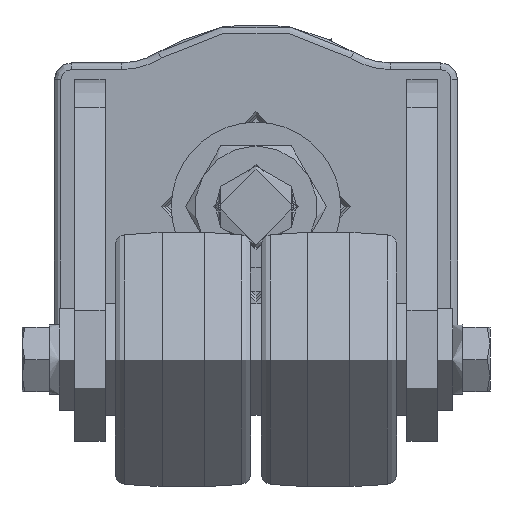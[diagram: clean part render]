
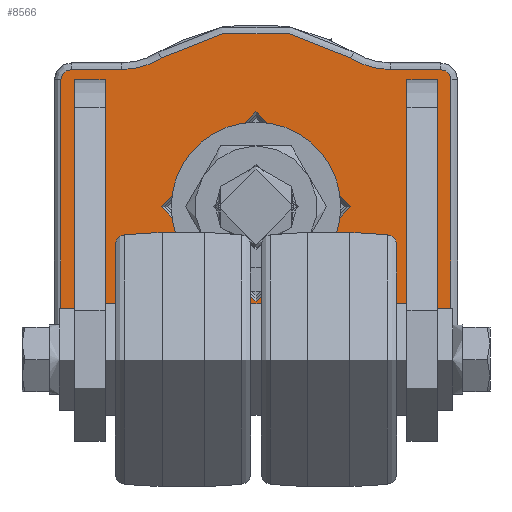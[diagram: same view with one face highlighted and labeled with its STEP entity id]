
A CAD part, front view. The second image highlights one B-rep face of the part: STEP entity #8566.
In plain terms, the highlighted planar face has unit normal (0, -1, 0).
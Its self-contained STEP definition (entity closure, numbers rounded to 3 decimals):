
#469=LINE('',#13063,#1231);
#755=LINE('',#14434,#1517);
#762=LINE('',#14465,#1524);
#768=LINE('',#14481,#1530);
#769=LINE('',#14483,#1531);
#775=LINE('',#14565,#1537);
#779=LINE('',#14575,#1541);
#783=LINE('',#14583,#1545);
#809=LINE('',#14729,#1571);
#810=LINE('',#14733,#1572);
#811=LINE('',#14737,#1573);
#812=LINE('',#14745,#1574);
#813=LINE('',#14749,#1575);
#814=LINE('',#14753,#1576);
#1231=VECTOR('',#9967,10.);
#1517=VECTOR('',#10447,10.);
#1524=VECTOR('',#10482,10.);
#1530=VECTOR('',#10500,10.);
#1531=VECTOR('',#10503,10.);
#1537=VECTOR('',#10627,10.);
#1541=VECTOR('',#10637,10.);
#1545=VECTOR('',#10649,10.);
#1571=VECTOR('',#10773,10.);
#1572=VECTOR('',#10776,10.);
#1573=VECTOR('',#10779,10.);
#1574=VECTOR('',#10786,10.);
#1575=VECTOR('',#10789,10.);
#1576=VECTOR('',#10792,10.);
#1917=PLANE('',#9095);
#2131=FACE_BOUND('',#3226,.T.);
#2132=FACE_BOUND('',#3227,.T.);
#2133=FACE_BOUND('',#3228,.T.);
#2679=FACE_OUTER_BOUND('',#3225,.T.);
#3225=EDGE_LOOP('',(#7522,#7523,#7524,#7525,#7526,#7527,#7528,#7529,#7530,
#7531,#7532,#7533,#7534,#7535,#7536,#7537));
#3226=EDGE_LOOP('',(#7538,#7539,#7540,#7541));
#3227=EDGE_LOOP('',(#7542,#7543,#7544,#7545));
#3228=EDGE_LOOP('',(#7546));
#3484=CIRCLE('',#9096,52.002);
#3485=CIRCLE('',#9097,22.);
#3486=CIRCLE('',#9098,3.);
#3487=CIRCLE('',#9099,3.);
#3488=CIRCLE('',#9100,22.);
#3489=CIRCLE('',#9101,52.002);
#3490=CIRCLE('',#9102,22.);
#3491=CIRCLE('',#9103,3.);
#3492=CIRCLE('',#9104,3.);
#3493=CIRCLE('',#9105,22.);
#3494=CIRCLE('',#9106,28.);
#3944=VERTEX_POINT('',#13059);
#3946=VERTEX_POINT('',#13062);
#4195=VERTEX_POINT('',#14430);
#4197=VERTEX_POINT('',#14433);
#4206=VERTEX_POINT('',#14461);
#4211=VERTEX_POINT('',#14479);
#4226=VERTEX_POINT('',#14561);
#4228=VERTEX_POINT('',#14564);
#4263=VERTEX_POINT('',#14723);
#4264=VERTEX_POINT('',#14724);
#4265=VERTEX_POINT('',#14726);
#4266=VERTEX_POINT('',#14728);
#4267=VERTEX_POINT('',#14730);
#4268=VERTEX_POINT('',#14732);
#4269=VERTEX_POINT('',#14734);
#4270=VERTEX_POINT('',#14736);
#4271=VERTEX_POINT('',#14738);
#4272=VERTEX_POINT('',#14740);
#4273=VERTEX_POINT('',#14742);
#4274=VERTEX_POINT('',#14744);
#4275=VERTEX_POINT('',#14746);
#4276=VERTEX_POINT('',#14748);
#4277=VERTEX_POINT('',#14750);
#4278=VERTEX_POINT('',#14752);
#4279=VERTEX_POINT('',#14755);
#4875=EDGE_CURVE('',#3946,#3944,#469,.T.);
#5248=EDGE_CURVE('',#4197,#4195,#755,.T.);
#5262=EDGE_CURVE('',#4206,#3946,#762,.T.);
#5270=EDGE_CURVE('',#3944,#4211,#768,.T.);
#5271=EDGE_CURVE('',#4211,#4206,#769,.T.);
#5309=EDGE_CURVE('',#4228,#4226,#775,.T.);
#5315=EDGE_CURVE('',#4195,#4228,#779,.T.);
#5319=EDGE_CURVE('',#4226,#4197,#783,.T.);
#5376=EDGE_CURVE('',#4263,#4264,#3484,.T.);
#5377=EDGE_CURVE('',#4265,#4263,#3485,.T.);
#5378=EDGE_CURVE('',#4266,#4265,#809,.T.);
#5379=EDGE_CURVE('',#4267,#4266,#3486,.T.);
#5380=EDGE_CURVE('',#4268,#4267,#810,.T.);
#5381=EDGE_CURVE('',#4269,#4268,#3487,.T.);
#5382=EDGE_CURVE('',#4270,#4269,#811,.T.);
#5383=EDGE_CURVE('',#4271,#4270,#3488,.T.);
#5384=EDGE_CURVE('',#4272,#4271,#3489,.T.);
#5385=EDGE_CURVE('',#4273,#4272,#3490,.T.);
#5386=EDGE_CURVE('',#4274,#4273,#812,.T.);
#5387=EDGE_CURVE('',#4275,#4274,#3491,.T.);
#5388=EDGE_CURVE('',#4276,#4275,#813,.T.);
#5389=EDGE_CURVE('',#4277,#4276,#3492,.T.);
#5390=EDGE_CURVE('',#4278,#4277,#814,.T.);
#5391=EDGE_CURVE('',#4264,#4278,#3493,.T.);
#5392=EDGE_CURVE('',#4279,#4279,#3494,.T.);
#7522=ORIENTED_EDGE('',*,*,#5376,.F.);
#7523=ORIENTED_EDGE('',*,*,#5377,.F.);
#7524=ORIENTED_EDGE('',*,*,#5378,.F.);
#7525=ORIENTED_EDGE('',*,*,#5379,.F.);
#7526=ORIENTED_EDGE('',*,*,#5380,.F.);
#7527=ORIENTED_EDGE('',*,*,#5381,.F.);
#7528=ORIENTED_EDGE('',*,*,#5382,.F.);
#7529=ORIENTED_EDGE('',*,*,#5383,.F.);
#7530=ORIENTED_EDGE('',*,*,#5384,.F.);
#7531=ORIENTED_EDGE('',*,*,#5385,.F.);
#7532=ORIENTED_EDGE('',*,*,#5386,.F.);
#7533=ORIENTED_EDGE('',*,*,#5387,.F.);
#7534=ORIENTED_EDGE('',*,*,#5388,.F.);
#7535=ORIENTED_EDGE('',*,*,#5389,.F.);
#7536=ORIENTED_EDGE('',*,*,#5390,.F.);
#7537=ORIENTED_EDGE('',*,*,#5391,.F.);
#7538=ORIENTED_EDGE('',*,*,#4875,.T.);
#7539=ORIENTED_EDGE('',*,*,#5270,.T.);
#7540=ORIENTED_EDGE('',*,*,#5271,.T.);
#7541=ORIENTED_EDGE('',*,*,#5262,.T.);
#7542=ORIENTED_EDGE('',*,*,#5309,.T.);
#7543=ORIENTED_EDGE('',*,*,#5319,.T.);
#7544=ORIENTED_EDGE('',*,*,#5248,.T.);
#7545=ORIENTED_EDGE('',*,*,#5315,.T.);
#7546=ORIENTED_EDGE('',*,*,#5392,.T.);
#8566=ADVANCED_FACE('',(#2679,#2131,#2132,#2133),#1917,.T.);
#9095=AXIS2_PLACEMENT_3D('',#14722,#10767,#10768);
#9096=AXIS2_PLACEMENT_3D('',#14725,#10769,#10770);
#9097=AXIS2_PLACEMENT_3D('',#14727,#10771,#10772);
#9098=AXIS2_PLACEMENT_3D('',#14731,#10774,#10775);
#9099=AXIS2_PLACEMENT_3D('',#14735,#10777,#10778);
#9100=AXIS2_PLACEMENT_3D('',#14739,#10780,#10781);
#9101=AXIS2_PLACEMENT_3D('',#14741,#10782,#10783);
#9102=AXIS2_PLACEMENT_3D('',#14743,#10784,#10785);
#9103=AXIS2_PLACEMENT_3D('',#14747,#10787,#10788);
#9104=AXIS2_PLACEMENT_3D('',#14751,#10790,#10791);
#9105=AXIS2_PLACEMENT_3D('',#14754,#10793,#10794);
#9106=AXIS2_PLACEMENT_3D('',#14756,#10795,#10796);
#9967=DIRECTION('',(0.,0.,1.));
#10447=DIRECTION('',(0.,0.,-1.));
#10482=DIRECTION('',(-1.,0.,0.));
#10500=DIRECTION('',(1.,0.,0.));
#10503=DIRECTION('',(0.,0.,-1.));
#10627=DIRECTION('',(0.,0.,1.));
#10637=DIRECTION('',(-1.,0.,0.));
#10649=DIRECTION('',(1.,0.,0.));
#10767=DIRECTION('center_axis',(0.,-1.,0.));
#10768=DIRECTION('ref_axis',(1.,0.,0.));
#10769=DIRECTION('center_axis',(0.,1.,0.));
#10770=DIRECTION('ref_axis',(0.,0.,
1.));
#10771=DIRECTION('center_axis',(0.,-1.,0.));
#10772=DIRECTION('ref_axis',(0.279,0.,-0.96));
#10773=DIRECTION('',(1.,0.,0.));
#10774=DIRECTION('center_axis',(0.,1.,0.));
#10775=DIRECTION('ref_axis',(-0.707,0.,0.707));
#10776=DIRECTION('',(0.,0.,1.));
#10777=DIRECTION('center_axis',(0.,1.,0.));
#10778=DIRECTION('ref_axis',(-0.707,0.,-0.707));
#10779=DIRECTION('',(-1.,0.,0.));
#10780=DIRECTION('center_axis',(0.,-1.,0.));
#10781=DIRECTION('ref_axis',(0.279,0.,0.96));
#10782=DIRECTION('center_axis',(0.,1.,0.));
#10783=DIRECTION('ref_axis',(0.,0.,
-1.));
#10784=DIRECTION('center_axis',(0.,-1.,0.));
#10785=DIRECTION('ref_axis',(-0.279,0.,0.96));
#10786=DIRECTION('',(-1.,0.,0.));
#10787=DIRECTION('center_axis',(0.,1.,0.));
#10788=DIRECTION('ref_axis',(0.707,0.,-0.707));
#10789=DIRECTION('',(0.,0.,-1.));
#10790=DIRECTION('center_axis',(0.,1.,0.));
#10791=DIRECTION('ref_axis',(0.707,0.,0.707));
#10792=DIRECTION('',(1.,0.,0.));
#10793=DIRECTION('center_axis',(0.,-1.,0.));
#10794=DIRECTION('ref_axis',(-0.279,0.,-0.96));
#10795=DIRECTION('center_axis',(0.,1.,0.));
#10796=DIRECTION('ref_axis',(-1.,0.,0.));
#13059=CARTESIAN_POINT('',(-53.5,-11.5,37.5));
#13062=CARTESIAN_POINT('',(-53.5,-11.5,-37.5));
#13063=CARTESIAN_POINT('',(-53.5,-11.5,-9.01));
#14430=CARTESIAN_POINT('',(53.5,-11.5,-37.5));
#14433=CARTESIAN_POINT('',(53.5,-11.5,37.5));
#14434=CARTESIAN_POINT('',(53.5,-11.5,-9.01));
#14461=CARTESIAN_POINT('',(-44.5,-11.5,-37.5));
#14465=CARTESIAN_POINT('',(-44.,-11.5,-37.5));
#14479=CARTESIAN_POINT('',(-44.5,-11.5,37.5));
#14481=CARTESIAN_POINT('',(-44.,-11.5,37.5));
#14483=CARTESIAN_POINT('',(-44.5,-11.5,-9.01));
#14561=CARTESIAN_POINT('',(44.5,-11.5,37.5));
#14564=CARTESIAN_POINT('',(44.5,-11.5,-37.5));
#14565=CARTESIAN_POINT('',(44.5,-11.5,-9.01));
#14575=CARTESIAN_POINT('',(5.,-11.5,-37.5));
#14583=CARTESIAN_POINT('',(5.,-11.5,37.5));
#14722=CARTESIAN_POINT('Origin',(-39.,-11.5,0.));
#14723=CARTESIAN_POINT('',(-27.844,-11.5,43.919));
#14724=CARTESIAN_POINT('',(27.844,-11.5,43.919));
#14725=CARTESIAN_POINT('Origin',(0.,-11.5,
0.));
#14726=CARTESIAN_POINT('',(-39.624,-11.5,40.5));
#14727=CARTESIAN_POINT('Origin',(-39.624,-11.5,62.5));
#14728=CARTESIAN_POINT('',(-54.5,-11.5,40.5));
#14729=CARTESIAN_POINT('',(-39.312,-11.5,40.5));
#14730=CARTESIAN_POINT('',(-57.5,-11.5,37.5));
#14731=CARTESIAN_POINT('Origin',(-54.5,-11.5,37.5));
#14732=CARTESIAN_POINT('',(-57.5,-11.5,-37.5));
#14733=CARTESIAN_POINT('',(-57.5,-11.5,18.75));
#14734=CARTESIAN_POINT('',(-54.5,-11.5,-40.5));
#14735=CARTESIAN_POINT('Origin',(-54.5,-11.5,-37.5));
#14736=CARTESIAN_POINT('',(-39.624,-11.5,-40.5));
#14737=CARTESIAN_POINT('',(-46.75,-11.5,-40.5));
#14738=CARTESIAN_POINT('',(-27.844,-11.5,-43.919));
#14739=CARTESIAN_POINT('Origin',(-39.624,-11.5,-62.5));
#14740=CARTESIAN_POINT('',(27.844,-11.5,-43.919));
#14741=CARTESIAN_POINT('Origin',(0.,-11.5,
0.));
#14742=CARTESIAN_POINT('',(39.624,-11.5,-40.5));
#14743=CARTESIAN_POINT('Origin',(39.624,-11.5,-62.5));
#14744=CARTESIAN_POINT('',(54.5,-11.5,-40.5));
#14745=CARTESIAN_POINT('',(0.312,-11.5,-40.5));
#14746=CARTESIAN_POINT('',(57.5,-11.5,-37.5));
#14747=CARTESIAN_POINT('Origin',(54.5,-11.5,-37.5));
#14748=CARTESIAN_POINT('',(57.5,-11.5,37.5));
#14749=CARTESIAN_POINT('',(57.5,-11.5,-18.75));
#14750=CARTESIAN_POINT('',(54.5,-11.5,40.5));
#14751=CARTESIAN_POINT('Origin',(54.5,-11.5,37.5));
#14752=CARTESIAN_POINT('',(39.624,-11.5,40.5));
#14753=CARTESIAN_POINT('',(7.75,-11.5,40.5));
#14754=CARTESIAN_POINT('Origin',(39.624,-11.5,62.5));
#14755=CARTESIAN_POINT('',(28.,-11.5,0.));
#14756=CARTESIAN_POINT('Origin',(0.,-11.5,
0.));
